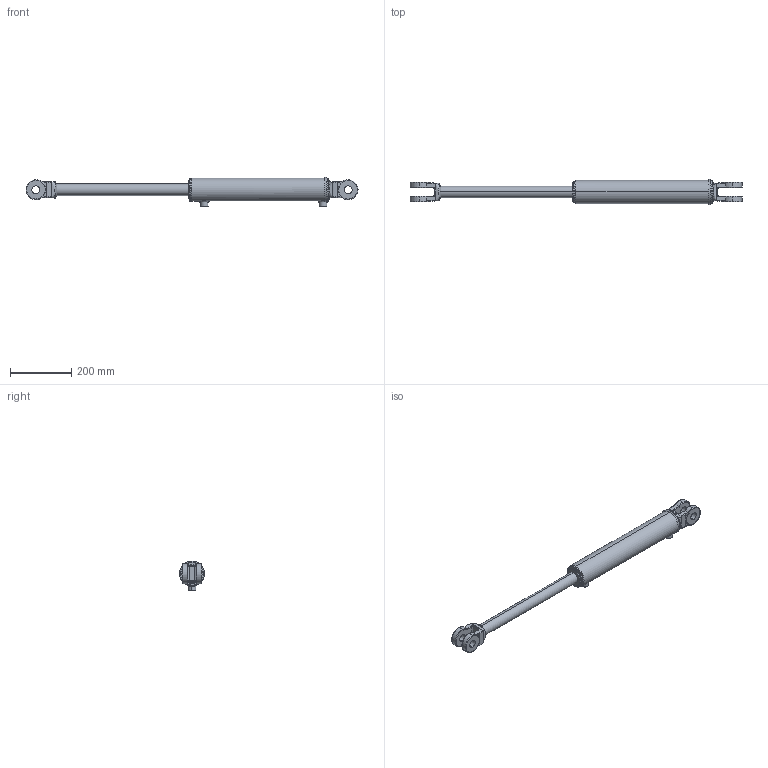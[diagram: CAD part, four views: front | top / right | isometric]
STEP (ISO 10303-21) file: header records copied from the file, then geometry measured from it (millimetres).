
FILE_DESCRIPTION (( 'STEP AP203' ), '1' );
FILE_NAME ('CL-CL250150x355 (14) extended.STEP', '2014-11-21T02:13:59', ( '' ), ( '' ), 'SwSTEP 2.0', 'SolidWorks 2014', '' );
FILE_SCHEMA (( 'CONFIG_CONTROL_DESIGN' ));
Length unit declared in the file: millimetre
Products named in the file (5): 2.5 inch ext circlip; CL-CL250150x355 (14) BODY; SPARE 6_14-xx; CL-CL250150x355 (14) extended; CL-CL250150x355 (14) body
Assembly tree (4 placements, depth 3):
  CL-CL250150x355 (14) extended
    CL-CL250150x355 (14) BODY
      CL-CL250150x355 (14) body
      2.5 inch ext circlip
    SPARE 6_14-xx
Bounding box: 1084.39 x 82.17 x 97.2 mm (x, y, z)
Volume: 2808814.6 mm3; surface area: 258313.4 mm2
Topology: 3 solids, 3 shells, 210 faces, 512 edges, 315 vertices
Faces by surface type: cylinder 91, bspline 59, plane 37, torus 15, cone 8
Entity records: 11387 total; most frequent: CARTESIAN_POINT 6222, ORIENTED_EDGE 1016, DIRECTION 943, EDGE_CURVE 508, AXIS2_PLACEMENT_3D 394, VERTEX_POINT 315, CIRCLE 235, EDGE_LOOP 233
